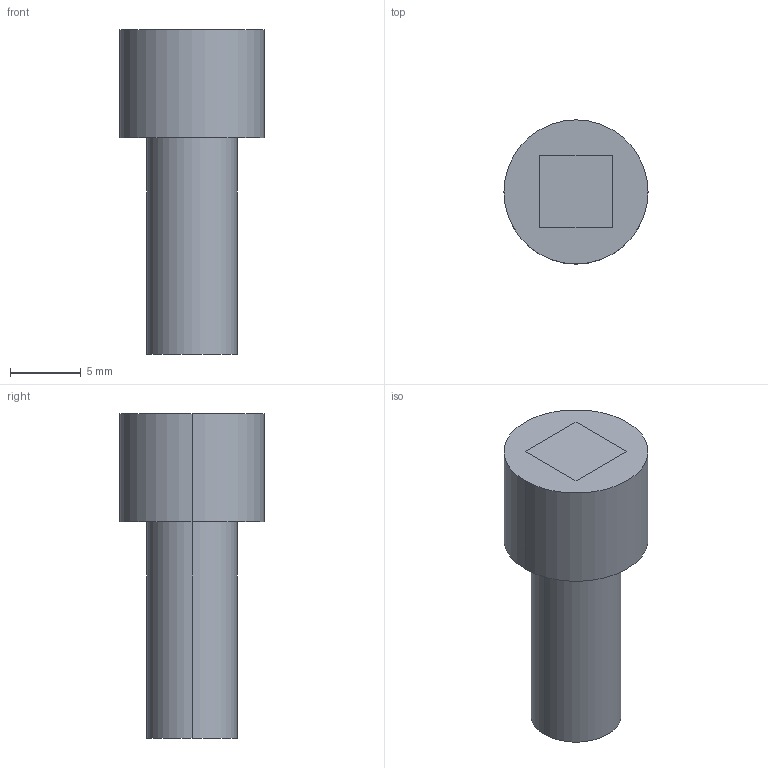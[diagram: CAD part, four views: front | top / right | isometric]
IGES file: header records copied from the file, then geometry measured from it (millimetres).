
Global section: file name: C:\Documents and Settings\Administrator\Desktop\Transfer Temp\magnet.igs; native system: AutoDesk Inventor R2.0 ; preprocessor: AutoDesk Inventor Iges Exporter R2.0; author: No Author specified; organization: No Organization specified; date: 20020113.185833; units: inch
Bounding box: 10.16 x 10.16 x 22.86 mm (x, y, z)
Surface area: 967.5 mm2 (no closed solid volume)
Topology: 0 solids, 0 shells, 18 faces, 72 edges, 72 vertices
Faces by surface type: bspline 14, revolution 4
